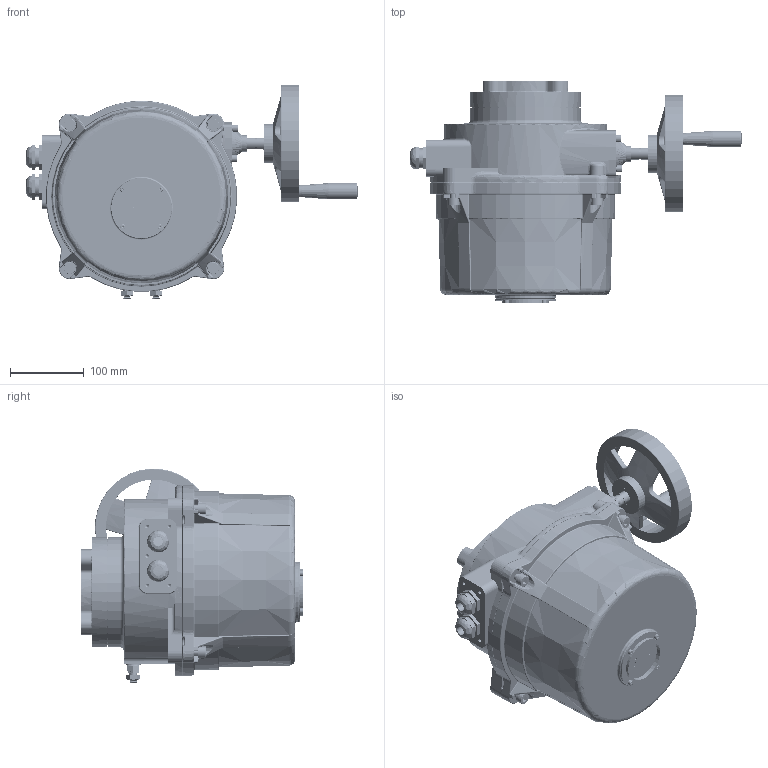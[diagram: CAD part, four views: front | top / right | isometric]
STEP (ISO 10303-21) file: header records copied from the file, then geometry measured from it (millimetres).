
FILE_DESCRIPTION (( 'STEP AP203' ), '1' );
FILE_NAME ('軞蚾4.STEP', '2021-01-20T06:14:15', ( '' ), ( '' ), 'SwSTEP 2.0', 'SolidWorks 2018', '' );
FILE_SCHEMA (( 'CONFIG_CONTROL_DESIGN' ));
Length unit declared in the file: millimetre
Products named in the file (48): 4#恘裝裔; QM4試肣眄И粣創; GB╱T 41-2000[六角螺母C级M10]; curved single coil spring lock washers gb_GB_FASTENER_WASHER_CSLW 4; 峚雄羲壽菜え; circlips for hole--type b gb_GB_CONNECTING_PIECE_RINGS_CHB 68; hexagon socket head cap screws gb_GB_FASTENER_SCREWS_HSHCS M6X10-S; o-rings series a gb_GB-T 3452.1 56x1.8-A; O型圈内75x2.65（法兰盘）; G3-4滅阨諉芛; O型圈外110x3.1（法兰盘）; O型圈外42x1.9（蜗杆盖）; 粣創6015; QM4恘裝; plain washers--product grade c gb_GB_FASTENER_WASHER_SMWC 4; QM4羲僅粣蟀諉裝_1; hex socket set screws with flat point gb_GB_FASTENER_SCREWS_HSFP M10X50-S; [盞沭忒謫16℅160]; GBｨuT 5781-2000[ﾁﾇﾍｷﾂﾝﾋｨ ﾈｫﾂﾝﾎﾆ CｼｶM10｡ﾁ45]; GB╱T 301-2015[单向推力球轴承[51000型]51103]; 4#奻裔_沓喃; 軞蚾; circlips for shaft--type a large gb_GB_CONNECTING_PIECE_RING_RRA 45; O型圈外225x3.5（底座); 发热电阻隔套10x7x4; spring pin slotted heavy duty1 gb_GB_PARALLEL_PINS_TYPE6 4X50; 4%23狟裔20190218_沓喃; GB╱T 70.1-2008[内六角圆柱头螺钉M10×35]; VTM4-F10-12蟀諉楊擘; 键 A 4×20_键 4×4×20; hex nuts, style 1-grades ab gb_GB_FASTENER_NUT_SNAB1 M10-S; 忒謫菜え囀6.8俋21綠1.5; 詩趙產薛.; GB╱T 70.1-2008[内六角圆柱头螺钉M6×25]; QM4怀堤攫; 萇輸耜; O型圈内10x1.9（蜗杆）; QM4轴承垫圈; hexagon socket head cap screws gb_GB_FASTENER_SCREWS_HSHCS M4X8-S; plain washers--product grade c gb_GB_FASTENER_WASHER_SMWC 10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
Assembly tree (73 placements, depth 3):
  軞蚾4
    4%23狟裔20190218_沓喃
    軞蚾
      QM4怀堤攫
      QM4粣杶
      QM4羲僅粣
      QM4試肣眄И粣創
      circlips for hole--type b gb_GB_CONNECTING_PIECE_RINGS_CHB 68
      circlips for shaft--type a large gb_GB_CONNECTING_PIECE_RING_RRA 45
      hexagon socket head cap screws gb_GB_FASTENER_SCREWS_HSHCS M5X16-N
      spring pin slotted heavy duty1 gb_GB_PARALLEL_PINS_TYPE6 4X50
      粣創6015
      QM4轴承垫圈
      QM4羲僅粣蟀諉裝_1
    VTM4-F10-12蟀諉楊擘
    QM4恘裝
    4#奻裔_沓喃
    4#恘裝裔
    [盞沭忒謫16℅160]
    G3-4滅阨諉芛  x2
    键 A 4×20_键 4×4×20
    葩磁杶
    GB╱T 70.1-2008[内六角圆柱头螺钉M6×25]  x4
    GB╱T 70.1-2008[内六角圆柱头螺钉M10×35]  x4
    GBｨuT 5781-2000[ﾁﾇﾍｷﾂﾝﾋｨ ﾈｫﾂﾝﾎﾆ CｼｶM10｡ﾁ45]  x2
    GB╱T 41-2000[六角螺母C级M10]  x2
    GB╱T 70.1-2008[内六角圆柱头螺钉M8×30]_M8×30  x8
    詩趙產薛.
    o-rings series a gb_GB-T 3452.1 56x1.8-A
    4#芼堤弝敦-裔_す裔
    hexagon socket head cap screws gb_GB_FASTENER_SCREWS_HSHCS M4X8-S  x4
    O型圈外110x3.1（法兰盘）
    O型圈内75x2.65（法兰盘）
    O型圈外225x3.5（底座)
    O型圈外42x1.9（蜗杆盖）
    O型圈内10x1.9（蜗杆）  x2
    hexagon socket head cap screws gb_GB_FASTENER_SCREWS_HSHCS M6X10-S
    忒謫菜え囀6.8俋21綠1.5
    hex socket set screws with flat point gb_GB_FASTENER_SCREWS_HSFP M10X50-S  x2
    hex nuts, style 1-grades ab gb_GB_FASTENER_NUT_SNAB1 M10-S  x2
    plain washers--product grade c gb_GB_FASTENER_WASHER_SMWC 10  x2
    GB╱T 301-2015[单向推力球轴承[51000型]51103]
    萇輸耜
    樓酗蹟佪_44  x2
    峚雄羲壽菜え
    plain washers--product grade c gb_GB_FASTENER_WASHER_SMWC 4
    curved single coil spring lock washers gb_GB_FASTENER_WASHER_CSLW 4  x3
    发热电阻隔套10x7x4
Bounding box: 451.35 x 303 x 291.9 mm (x, y, z)
Volume: 12451529.8 mm3; surface area: 935078.9 mm2
Topology: 98 solids, 98 shells, 6201 faces, 15674 edges, 9721 vertices
Faces by surface type: cylinder 2007, plane 1486, bspline 1142, cone 1127, torus 297, sphere 142
Entity records: 211359 total; most frequent: CARTESIAN_POINT 89645, ORIENTED_EDGE 25552, DIRECTION 22365, EDGE_CURVE 12776, AXIS2_PLACEMENT_3D 8452, VERTEX_POINT 8145, LINE 5461, VECTOR 5461
